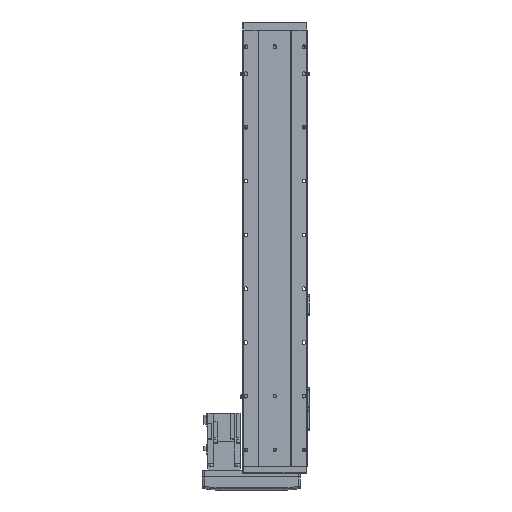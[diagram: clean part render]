
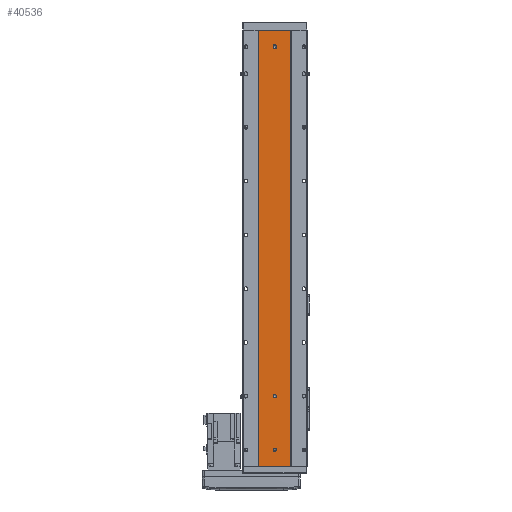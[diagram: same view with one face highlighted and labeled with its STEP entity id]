
A CAD part, front view. The second image highlights one B-rep face of the part: STEP entity #40536.
In plain terms, the highlighted planar face has unit normal (0, -1, 0).
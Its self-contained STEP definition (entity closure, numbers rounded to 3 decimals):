
#55 = ORIENTED_EDGE ( 'NONE', *, *, #23833, .F. ) ;
#786 = VERTEX_POINT ( 'NONE', #45541 ) ;
#1347 = DIRECTION ( 'NONE',  ( 0., 0., -1. ) ) ;
#1435 = LINE ( 'NONE', #57820, #53050 ) ;
#1552 = CARTESIAN_POINT ( 'NONE',  ( 0., 1., 130. ) ) ;
#2149 = DIRECTION ( 'NONE',  ( 0., 0., -1. ) ) ;
#2899 = CARTESIAN_POINT ( 'NONE',  ( -30., 1., 0. ) ) ;
#3127 = DIRECTION ( 'NONE',  ( 0., 0., -1. ) ) ;
#3789 = CARTESIAN_POINT ( 'NONE',  ( 0., 1., 779. ) ) ;
#3988 = DIRECTION ( 'NONE',  ( 0., 0., -1. ) ) ;
#4384 = ORIENTED_EDGE ( 'NONE', *, *, #49270, .F. ) ;
#4388 = VECTOR ( 'NONE', #19086, 1000. ) ;
#4632 = DIRECTION ( 'NONE',  ( 1., 0., 0. ) ) ;
#4773 = EDGE_CURVE ( 'NONE', #30281, #26507, #18867, .T. ) ;
#5215 = ORIENTED_EDGE ( 'NONE', *, *, #4773, .T. ) ;
#5411 = CIRCLE ( 'NONE', #30511, 3. ) ;
#5898 = EDGE_LOOP ( 'NONE', ( #55, #36226 ) ) ;
#6862 = EDGE_CURVE ( 'NONE', #16832, #786, #21243, .T. ) ;
#6898 = CARTESIAN_POINT ( 'NONE',  ( 3., 1., 779. ) ) ;
#6966 = AXIS2_PLACEMENT_3D ( 'NONE', #14789, #56273, #47735 ) ;
#7731 = FACE_BOUND ( 'NONE', #30256, .T. ) ;
#7816 = DIRECTION ( 'NONE',  ( 0., 1., 0. ) ) ;
#7949 = EDGE_CURVE ( 'NONE', #21020, #16832, #40047, .T. ) ;
#9440 = ORIENTED_EDGE ( 'NONE', *, *, #55767, .F. ) ;
#10367 = EDGE_CURVE ( 'NONE', #30281, #29708, #29404, .T. ) ;
#10641 = FACE_BOUND ( 'NONE', #58697, .T. ) ;
#10680 = VERTEX_POINT ( 'NONE', #50260 ) ;
#10947 = DIRECTION ( 'NONE',  ( 0., 0., -1. ) ) ;
#10989 = CARTESIAN_POINT ( 'NONE',  ( 30., 1., 0. ) ) ;
#11355 = CARTESIAN_POINT ( 'NONE',  ( -30., 1., 811. ) ) ;
#12073 = EDGE_CURVE ( 'NONE', #26507, #39208, #23332, .T. ) ;
#13045 = ORIENTED_EDGE ( 'NONE', *, *, #10367, .F. ) ;
#13632 = EDGE_CURVE ( 'NONE', #29708, #39208, #19690, .T. ) ;
#14144 = CIRCLE ( 'NONE', #53611, 3. ) ;
#14789 = CARTESIAN_POINT ( 'NONE',  ( 0., 1., 30. ) ) ;
#16832 = VERTEX_POINT ( 'NONE', #6898 ) ;
#17099 = DIRECTION ( 'NONE',  ( 1., 0., 0. ) ) ;
#17219 = ORIENTED_EDGE ( 'NONE', *, *, #20267, .F. ) ;
#17367 = CARTESIAN_POINT ( 'NONE',  ( -30., 1., 811. ) ) ;
#17649 = DIRECTION ( 'NONE',  ( 0., 0., -1. ) ) ;
#18528 = CIRCLE ( 'NONE', #6966, 3. ) ;
#18867 = LINE ( 'NONE', #47155, #4388 ) ;
#19086 = DIRECTION ( 'NONE',  ( 0., 0., -1. ) ) ;
#19425 = CARTESIAN_POINT ( 'NONE',  ( -3., 1., 779. ) ) ;
#19504 = VERTEX_POINT ( 'NONE', #19425 ) ;
#19690 = LINE ( 'NONE', #49061, #41954 ) ;
#20267 = EDGE_CURVE ( 'NONE', #35923, #10680, #5411, .T. ) ;
#20335 = DIRECTION ( 'NONE',  ( 0., 0., -1. ) ) ;
#20438 = CARTESIAN_POINT ( 'NONE',  ( -30., 1., 0. ) ) ;
#21020 = VERTEX_POINT ( 'NONE', #36040 ) ;
#21243 = LINE ( 'NONE', #31190, #42320 ) ;
#21517 = CARTESIAN_POINT ( 'NONE',  ( 0., 1., 130. ) ) ;
#23332 = LINE ( 'NONE', #2899, #58930 ) ;
#23833 = EDGE_CURVE ( 'NONE', #56259, #26941, #18528, .T. ) ;
#24007 = AXIS2_PLACEMENT_3D ( 'NONE', #29319, #25018, #20335 ) ;
#24363 = CARTESIAN_POINT ( 'NONE',  ( 0., 1., 779. ) ) ;
#25018 = DIRECTION ( 'NONE',  ( 0., -1., 0. ) ) ;
#25358 = DIRECTION ( 'NONE',  ( 0., -1., 0. ) ) ;
#25409 = ORIENTED_EDGE ( 'NONE', *, *, #57364, .F. ) ;
#25915 = FACE_BOUND ( 'NONE', #5898, .T. ) ;
#26505 = ORIENTED_EDGE ( 'NONE', *, *, #12073, .T. ) ;
#26507 = VERTEX_POINT ( 'NONE', #20438 ) ;
#26941 = VERTEX_POINT ( 'NONE', #50735 ) ;
#28148 = CARTESIAN_POINT ( 'NONE',  ( -30., 1., 811. ) ) ;
#29319 = CARTESIAN_POINT ( 'NONE',  ( 0., 1., 781. ) ) ;
#29404 = LINE ( 'NONE', #28148, #31555 ) ;
#29708 = VERTEX_POINT ( 'NONE', #29891 ) ;
#29840 = CARTESIAN_POINT ( 'NONE',  ( 0., 1., 30. ) ) ;
#29891 = CARTESIAN_POINT ( 'NONE',  ( 30., 1., 811. ) ) ;
#30256 = EDGE_LOOP ( 'NONE', ( #4384, #17219 ) ) ;
#30281 = VERTEX_POINT ( 'NONE', #11355 ) ;
#30511 = AXIS2_PLACEMENT_3D ( 'NONE', #21517, #54844, #17649 ) ;
#30589 = EDGE_CURVE ( 'NONE', #38354, #19504, #1435, .T. ) ;
#30806 = DIRECTION ( 'NONE',  ( 0., 0., 1. ) ) ;
#31190 = CARTESIAN_POINT ( 'NONE',  ( 3., 1., 779. ) ) ;
#31555 = VECTOR ( 'NONE', #4632, 1000. ) ;
#35285 = AXIS2_PLACEMENT_3D ( 'NONE', #17367, #7816, #30806 ) ;
#35923 = VERTEX_POINT ( 'NONE', #56364 ) ;
#36040 = CARTESIAN_POINT ( 'NONE',  ( 0., 1., 776. ) ) ;
#36108 = FACE_OUTER_BOUND ( 'NONE', #39678, .T. ) ;
#36226 = ORIENTED_EDGE ( 'NONE', *, *, #41761, .F. ) ;
#38126 = CIRCLE ( 'NONE', #24007, 3. ) ;
#38354 = VERTEX_POINT ( 'NONE', #48135 ) ;
#39208 = VERTEX_POINT ( 'NONE', #10989 ) ;
#39678 = EDGE_LOOP ( 'NONE', ( #26505, #56675, #13045, #5215 ) ) ;
#40047 = CIRCLE ( 'NONE', #54225, 3. ) ;
#40536 = ADVANCED_FACE ( 'NONE', ( #10641, #7731, #25915, #36108 ), #54797, .F. ) ;
#41761 = EDGE_CURVE ( 'NONE', #26941, #56259, #14144, .T. ) ;
#41954 = VECTOR ( 'NONE', #3127, 1000. ) ;
#42320 = VECTOR ( 'NONE', #58814, 1000. ) ;
#43408 = DIRECTION ( 'NONE',  ( 0., -1., 0. ) ) ;
#45541 = CARTESIAN_POINT ( 'NONE',  ( 3., 1., 781. ) ) ;
#47155 = CARTESIAN_POINT ( 'NONE',  ( -30., 1., 811. ) ) ;
#47735 = DIRECTION ( 'NONE',  ( 0., 0., -1. ) ) ;
#48135 = CARTESIAN_POINT ( 'NONE',  ( -3., 1., 781. ) ) ;
#49061 = CARTESIAN_POINT ( 'NONE',  ( 30., 1., 811. ) ) ;
#49159 = CIRCLE ( 'NONE', #50493, 3. ) ;
#49270 = EDGE_CURVE ( 'NONE', #10680, #35923, #49853, .T. ) ;
#49681 = CARTESIAN_POINT ( 'NONE',  ( 0., 1., 27. ) ) ;
#49853 = CIRCLE ( 'NONE', #59260, 3. ) ;
#50128 = DIRECTION ( 'NONE',  ( 0., -1., 0. ) ) ;
#50260 = CARTESIAN_POINT ( 'NONE',  ( 0., 1., 127. ) ) ;
#50493 = AXIS2_PLACEMENT_3D ( 'NONE', #3789, #50128, #3988 ) ;
#50735 = CARTESIAN_POINT ( 'NONE',  ( 0., 1., 33. ) ) ;
#50770 = ORIENTED_EDGE ( 'NONE', *, *, #30589, .F. ) ;
#52198 = DIRECTION ( 'NONE',  ( 0., -1., 0. ) ) ;
#53050 = VECTOR ( 'NONE', #1347, 1000. ) ;
#53611 = AXIS2_PLACEMENT_3D ( 'NONE', #29840, #25358, #10947 ) ;
#54225 = AXIS2_PLACEMENT_3D ( 'NONE', #24363, #52198, #56887 ) ;
#54797 = PLANE ( 'NONE',  #35285 ) ;
#54844 = DIRECTION ( 'NONE',  ( 0., -1., 0. ) ) ;
#55767 = EDGE_CURVE ( 'NONE', #19504, #21020, #49159, .T. ) ;
#56153 = ORIENTED_EDGE ( 'NONE', *, *, #6862, .F. ) ;
#56259 = VERTEX_POINT ( 'NONE', #49681 ) ;
#56273 = DIRECTION ( 'NONE',  ( 0., -1., 0. ) ) ;
#56364 = CARTESIAN_POINT ( 'NONE',  ( 0., 1., 133. ) ) ;
#56675 = ORIENTED_EDGE ( 'NONE', *, *, #13632, .F. ) ;
#56887 = DIRECTION ( 'NONE',  ( 0., 0., -1. ) ) ;
#57364 = EDGE_CURVE ( 'NONE', #786, #38354, #38126, .T. ) ;
#57820 = CARTESIAN_POINT ( 'NONE',  ( -3., 1., 779. ) ) ;
#58697 = EDGE_LOOP ( 'NONE', ( #56153, #59993, #9440, #50770, #25409 ) ) ;
#58814 = DIRECTION ( 'NONE',  ( 0., 0., 1. ) ) ;
#58930 = VECTOR ( 'NONE', #17099, 1000. ) ;
#59260 = AXIS2_PLACEMENT_3D ( 'NONE', #1552, #43408, #2149 ) ;
#59993 = ORIENTED_EDGE ( 'NONE', *, *, #7949, .F. ) ;
